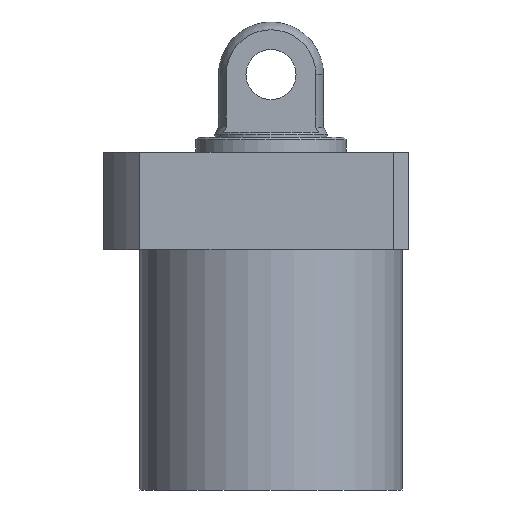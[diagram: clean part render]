
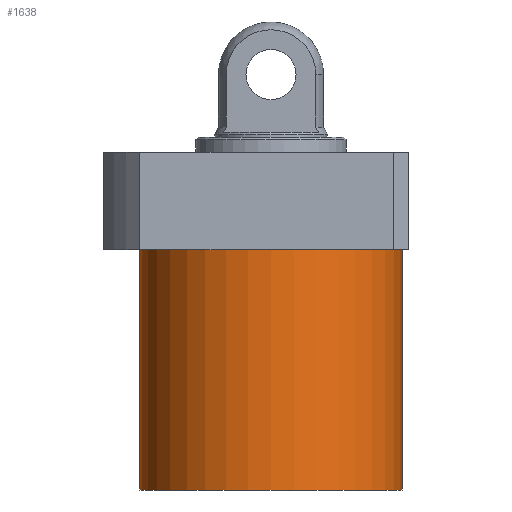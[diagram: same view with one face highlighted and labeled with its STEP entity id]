
A CAD part, front view. The second image highlights one B-rep face of the part: STEP entity #1638.
In plain terms, the highlighted cylindrical face has radius 52.5 mm (diameter 105 mm), a partial arc.
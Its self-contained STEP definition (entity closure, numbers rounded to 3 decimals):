
#5 = EDGE_LOOP ( 'NONE', ( #1146, #1273, #258, #849 ) ) ;
#91 = DIRECTION ( 'NONE',  ( -1., 0., 0. ) ) ;
#102 = DIRECTION ( 'NONE',  ( 0., 0., 1. ) ) ;
#121 = CARTESIAN_POINT ( 'NONE',  ( 0., 0., -115.5 ) ) ;
#176 = CYLINDRICAL_SURFACE ( 'NONE', #1229, 52.5 ) ;
#258 = ORIENTED_EDGE ( 'NONE', *, *, #1017, .T. ) ;
#299 = AXIS2_PLACEMENT_3D ( 'NONE', #1336, #1753, #1745 ) ;
#388 = AXIS2_PLACEMENT_3D ( 'NONE', #894, #492, #91 ) ;
#492 = DIRECTION ( 'NONE',  ( 0., 0., -1. ) ) ;
#539 = CARTESIAN_POINT ( 'NONE',  ( 52.5, 0., -115.5 ) ) ;
#586 = CARTESIAN_POINT ( 'NONE',  ( 52.5, 0., -19.5 ) ) ;
#587 = VECTOR ( 'NONE', #1066, 1000. ) ;
#711 = CARTESIAN_POINT ( 'NONE',  ( -52.5, 0., -115.5 ) ) ;
#731 = VERTEX_POINT ( 'NONE', #586 ) ;
#740 = VERTEX_POINT ( 'NONE', #711 ) ;
#785 = FACE_OUTER_BOUND ( 'NONE', #5, .T. ) ;
#849 = ORIENTED_EDGE ( 'NONE', *, *, #1404, .T. ) ;
#894 = CARTESIAN_POINT ( 'NONE',  ( 0., 0., -115.5 ) ) ;
#945 = LINE ( 'NONE', #539, #587 ) ;
#954 = EDGE_CURVE ( 'NONE', #1191, #740, #1557, .T. ) ;
#1017 = EDGE_CURVE ( 'NONE', #1191, #731, #945, .T. ) ;
#1036 = VECTOR ( 'NONE', #1380, 1000. ) ;
#1066 = DIRECTION ( 'NONE',  ( 0., 0., 1. ) ) ;
#1108 = CARTESIAN_POINT ( 'NONE',  ( -52.5, 0., -19.5 ) ) ;
#1146 = ORIENTED_EDGE ( 'NONE', *, *, #1697, .F. ) ;
#1191 = VERTEX_POINT ( 'NONE', #1227 ) ;
#1227 = CARTESIAN_POINT ( 'NONE',  ( 52.5, 0., -115.5 ) ) ;
#1229 = AXIS2_PLACEMENT_3D ( 'NONE', #121, #102, #1367 ) ;
#1273 = ORIENTED_EDGE ( 'NONE', *, *, #954, .F. ) ;
#1297 = VERTEX_POINT ( 'NONE', #1108 ) ;
#1336 = CARTESIAN_POINT ( 'NONE',  ( 0., 0., -19.5 ) ) ;
#1367 = DIRECTION ( 'NONE',  ( 1., 0., 0. ) ) ;
#1380 = DIRECTION ( 'NONE',  ( 0., 0., 1. ) ) ;
#1404 = EDGE_CURVE ( 'NONE', #731, #1297, #1500, .T. ) ;
#1500 = CIRCLE ( 'NONE', #299, 52.5 ) ;
#1530 = CARTESIAN_POINT ( 'NONE',  ( -52.5, 0., -115.5 ) ) ;
#1532 = LINE ( 'NONE', #1530, #1036 ) ;
#1557 = CIRCLE ( 'NONE', #388, 52.5 ) ;
#1638 = ADVANCED_FACE ( 'NONE', ( #785 ), #176, .T. ) ;
#1697 = EDGE_CURVE ( 'NONE', #740, #1297, #1532, .T. ) ;
#1745 = DIRECTION ( 'NONE',  ( 1., 0., 0. ) ) ;
#1753 = DIRECTION ( 'NONE',  ( 0., 0., -1. ) ) ;
